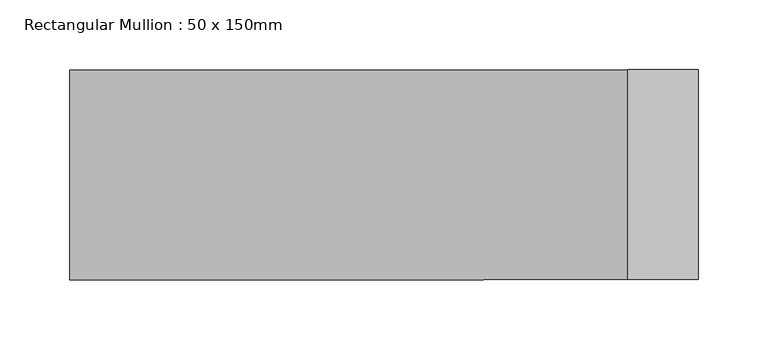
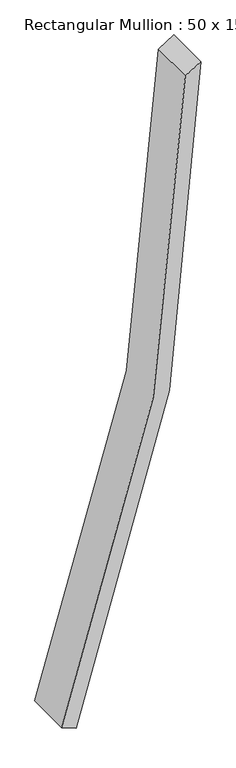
"""IFC4 building model written with IfcOpenShell, lengths in millimetres: member geometry, Rectangular Mullion : 50 x 150mm."""

from ifc_helpers import new_model, si_unit, point, frame, frame_2d, origin, place, context, project, spatial, polyline, circle_curve, trimmed, segment, composite_curve, outline, extrude, source, transform, mapped, element, save


def rectangular_mullion_50_x_150mm_a1b95eed(model_context):
    return source(origin(), model_context, "Body", "SweptSolid", [
        extrude(outline(composite_curve([segment(trimmed(circle_curve(frame_2d((0.0, -5826.7943099)), 5826.7943099), [point((-2127.7451417, -402.3835085))], [point((0.0, 0.0))], False, "CARTESIAN"), True, "CONTINUOUS"), segment(polyline([(0.0, 0.0), (-30.4924339, -50.0804767)]), True, "CONTINUOUS"), segment(trimmed(circle_curve(frame_2d((0.0, -5826.7943099)), 5776.7943099), [point((-30.4924339, -50.0804767))], [point((-2109.4868591, -448.9306365))], True, "CARTESIAN"), True, "CONTINUOUS"), segment(polyline([(-2109.4868591, -448.9306365), (-2127.7451417, -402.3835085)]), True, "CONTINUOUS")], self_intersect=False)), frame((0.0, -75.0, 0.0), z_axis=(0.0, 1.0, 0.0), x_axis=(0.0, 0.0, 1.0)), (0.0, 0.0, 1.0), 150.0),
    ])


if __name__ == "__main__":
    model = new_model("IFC4")
    model_context = context("Model", 3, world=origin())
    ifc_project = project(units=[si_unit("LENGTHUNIT", "METRE", prefix="MILLI")], contexts=[model_context])
    site = spatial("IfcSite", under=ifc_project)
    building = spatial("IfcBuilding", under=site)
    placement = place(None, origin())
    rectangular_mullion_50_x_150mm_shape = rectangular_mullion_50_x_150mm_a1b95eed(model_context)
    element("IfcMember", 1, ObjectType="Rectangular Mullion : 50 x 150mm", at=placement, inside=building, context=model_context, shape_type="MappedRepresentation", body=[
        mapped(rectangular_mullion_50_x_150mm_shape, transform((0.0, 0.0, 0.0), x_axis=(1.0, 0.0, 0.0), y_axis=(0.0, 1.0, 0.0), z_axis=(0.0, 0.0, 1.0))),
    ])
    save(model, "model.ifc")
